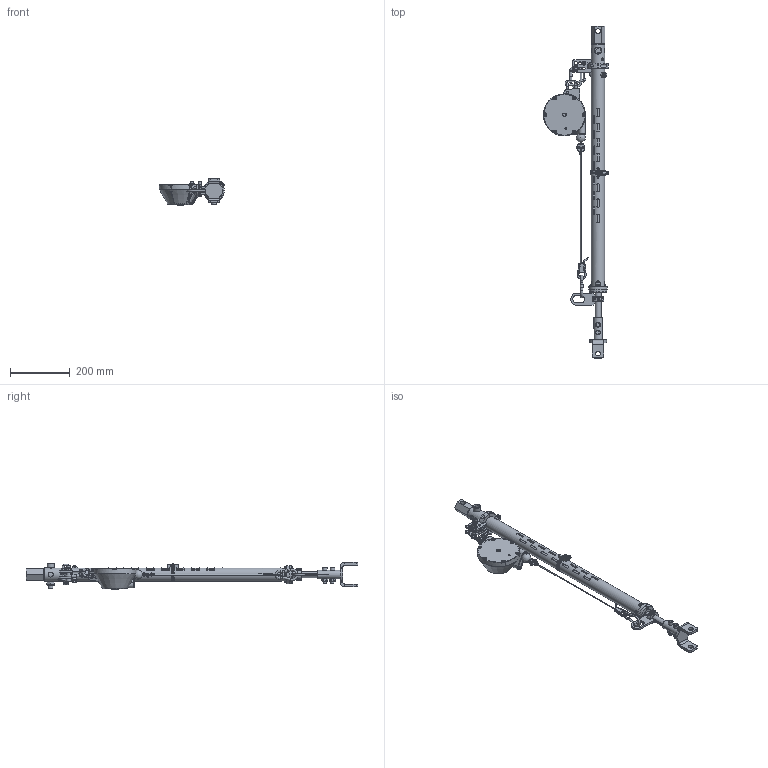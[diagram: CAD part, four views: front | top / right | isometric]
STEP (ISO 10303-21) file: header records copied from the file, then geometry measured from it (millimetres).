
FILE_DESCRIPTION(/* description */ (''),/* implementation_level */ '2;1');
FILE_NAME(/* name */ 'ATA2800-24SB.001.stp',/* time_stamp */ '2024-10-29T16:04:06-04:00',/* author */ (''),/* organization */ (''),/* preprocessor_version */ 'ST-DEVELOPER v19.4',/* originating_system */ 'SIEMENS PLM Software NX2306.7002',/* authorisation */ '');
FILE_SCHEMA (('AUTOMOTIVE_DESIGN { 1 0 10303 214 3 1 1 1 }'));
Products named in the file (1): ATA2800-24SB.001
Bounding box: 218.51 x 1114.01 x 92.01 mm (x, y, z)
Volume: 1219737 mm3; surface area: 590196 mm2
Topology: 343 solids, 344 shells, 2760 faces, 7333 edges, 4775 vertices
Faces by surface type: plane 1175, cylinder 732, cone 304, sphere 263, revolution 111, torus 109, bspline 37, extrusion 29
Full cylindrical faces by diameter (mm): 1.25 x1, 1.7 x3, 2 x1, 2.1 x3, 2.3 x6, 2.5 x4, 2.9 x10, 3 x3, 3.242 x3, 3.5 x7, 3.621 x2, 4 x15, 4.3 x4, 4.763 x2, 4.917 x1, 5 x15, 5.5 x6, 6 x9, 6.6 x1, 6.8 x6, 7 x1, 7.5 x3, 7.569 x4, 7.938 x6, 8 x2, 8.5 x5, 8.636 x8, 8.731 x2, 9.5 x4, 10 x14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
Entity records: 126508 total; most frequent: CARTESIAN_POINT 48055, ORIENTED_EDGE 11848, DIRECTION 11590, EDGE_CURVE 5924, AXIS2_PLACEMENT_3D 4516, VERTEX_POINT 4318, EDGE_LOOP 3286, ADVANCED_FACE 2758
